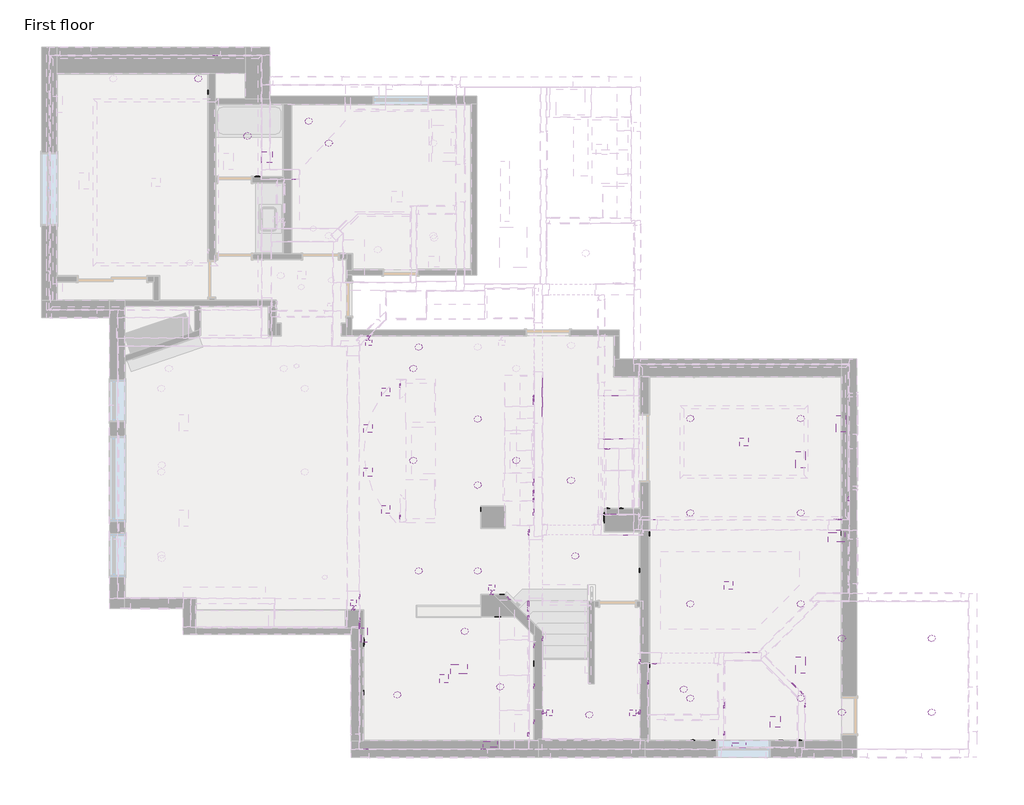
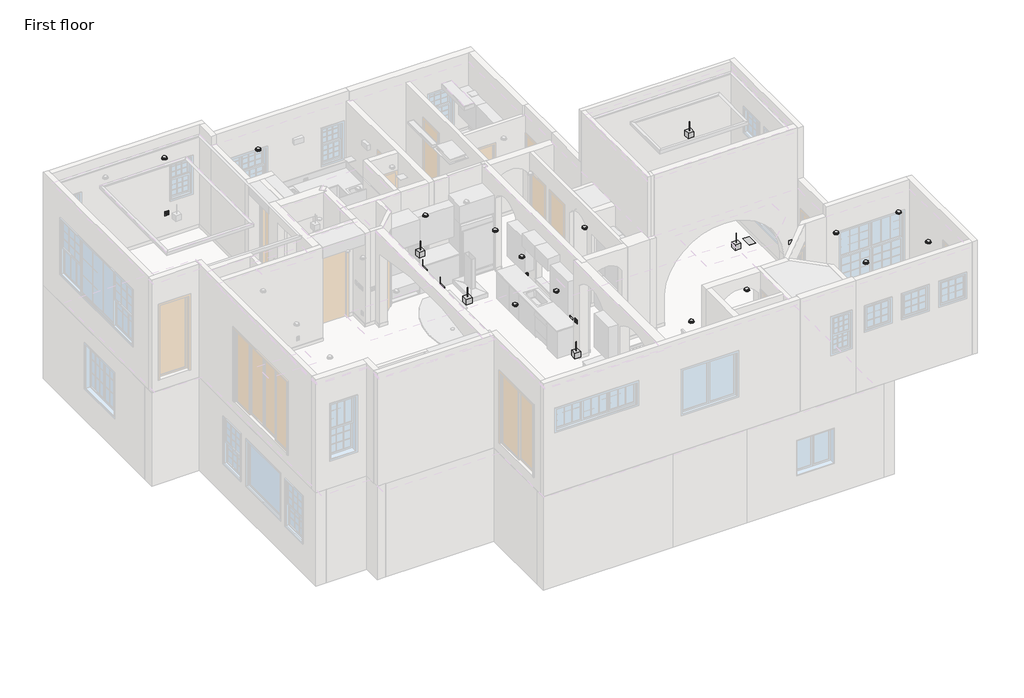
# One storey, part 13 of 14: 68 proxies, 44 light fixtures, 12 air terminals.
"""IFC4 building model written with IfcOpenShell, lengths in millimetres."""

from ifc_helpers import new_model, si_unit, frame, origin, place, context, project, spatial, polyline, outline, extrude, transform, mapped, element, save
from components import c_grill_surface_based_standard_2_7b59e936, c_grill_surface_based_standard_2_45ac2899, c_grill_surface_based_standard_2_2f876657, c_grill_surface_based_standard_2_950f701c, c_grill_surface_based_standard_2_48c5f946, switch_1_switch_1_abfddd09, switch_1_switch_1_dede19c3, switch_15_switch_15_0b5d0301, switch_2_switch_2_55747a91, switch_20_switch_20_6c98c90f, switch_22_switch_22_35867e67, switch_24_switch_24_14b5091a, switch_3_switch_3_7c683c41, switch_4_switch_4_5f3987fe, switch_6_switch_6_e364368d, light_fixture_d200bb49, c_ceiling_lamp_c_ceiling_lamp_de8f2177, c_spotlight_recessed_light_2_4ee42974, c_wall_lamp_horizontal_c_wall_lamp_horizontal_b369eba9

model = new_model("IFC4")

# Units and contexts
model_context = context("Model", 3, world=origin())
ifc_project = project(units=[si_unit("LENGTHUNIT", "METRE", prefix="MILLI")], contexts=[model_context])

# Site, building, storey
site = spatial("IfcSite", under=ifc_project)
building = spatial("IfcBuilding", under=site)
storey = spatial("IfcBuildingStorey", under=building, Name="First floor", Elevation=0.0)

# Air terminals
placement = place(None, origin())
element("IfcAirTerminal", 1, ObjectType="C_Grill_Surface Based : Standard 2", at=placement, inside=storey, context=model_context, shape_type="SweptSolid", body=[
    extrude(outline(polyline([(9225.75625, 647.7), (9009.85625, 647.7), (9009.85625, 876.3), (9225.75625, 876.3), (9225.75625, 647.7)])), frame((0.0, 0.0, 5949.95), z_axis=(0.0, 0.0, 1.0), x_axis=(1.0, 0.0, 0.0)), (0.0, 0.0, 1.0), 6.35),
])
c_grill_surface_based_standard_2_shape = c_grill_surface_based_standard_2_7b59e936(model_context)
element("IfcAirTerminal", 2, ObjectType="C_Grill_Surface Based : Standard 2", at=placement, inside=storey, context=model_context, shape_type="MappedRepresentation", body=[
    mapped(c_grill_surface_based_standard_2_shape, transform((2984.5, 279.4, 3251.2), x_axis=(0.0, -1.0, 0.0), y_axis=(1.0, 0.0, 0.0), z_axis=(0.0, 0.0, 1.0))),
])
element("IfcAirTerminal", 3, ObjectType="C_Grill_Surface Based : Standard 2", at=placement, inside=storey, context=model_context, shape_type="MappedRepresentation", body=[
    mapped(c_grill_surface_based_standard_2_shape, transform((279.4, 2628.9, 3251.2), x_axis=(1.0, 0.0, 0.0), y_axis=(0.0, 1.0, 0.0), z_axis=(0.0, 0.0, 1.0))),
])
c_grill_surface_based_standard_2_2_shape = c_grill_surface_based_standard_2_45ac2899(model_context)
element("IfcAirTerminal", 4, ObjectType="C_Grill_Surface Based : Standard 2", at=placement, inside=storey, context=model_context, shape_type="MappedRepresentation", body=[
    mapped(c_grill_surface_based_standard_2_2_shape, transform((10439.4, 4737.1001027, 3251.2), x_axis=(0.0, -1.0, 0.0), y_axis=(1.0, 0.0, 0.0), z_axis=(0.0, 0.0, 1.0))),
])
element("IfcAirTerminal", 5, ObjectType="C_Grill_Surface Based : Standard 2", at=placement, inside=storey, context=model_context, shape_type="MappedRepresentation", body=[
    mapped(c_grill_surface_based_standard_2_2_shape, transform((9664.7, 6400.8, 2565.4), x_axis=(1.0, 0.0, 0.0), y_axis=(0.0, -1.0, 0.0), z_axis=(0.0, 0.0, -1.0))),
])
element("IfcAirTerminal", 6, ObjectType="C_Grill_Surface Based : Standard 2", at=placement, inside=storey, context=model_context, shape_type="MappedRepresentation", body=[
    mapped(c_grill_surface_based_standard_2_2_shape, transform((9664.7, 1981.2, 2565.4), x_axis=(1.0, 0.0, 0.0), y_axis=(0.0, -1.0, 0.0), z_axis=(0.0, 0.0, -1.0))),
])
element("IfcAirTerminal", 7, ObjectType="C_Grill_Surface Based : Standard 2", at=placement, inside=storey, context=model_context, shape_type="MappedRepresentation", body=[
    mapped(c_grill_surface_based_standard_2_2_shape, transform((2311.4176056, 1898.65, 2565.4), x_axis=(0.0, -1.0, 0.0), y_axis=(-1.0, 0.0, 0.0), z_axis=(0.0, 0.0, -1.0))),
])
element("IfcAirTerminal", 8, ObjectType="C_Grill_Surface Based : Standard 2", at=placement, inside=storey, context=model_context, shape_type="MappedRepresentation", body=[
    mapped(c_grill_surface_based_standard_2_2_shape, transform((10528.3, 7173.676362, 3251.2), x_axis=(1.0, 0.0, 0.0), y_axis=(0.0, 1.0, 0.0), z_axis=(0.0, 0.0, 1.0))),
])
c_grill_surface_based_standard_2_3_shape = c_grill_surface_based_standard_2_2f876657(model_context)
element("IfcAirTerminal", 9, ObjectType="C_Grill_Surface Based : Standard 2", at=placement, inside=storey, context=model_context, shape_type="MappedRepresentation", body=[
    mapped(c_grill_surface_based_standard_2_3_shape, transform((4102.1, 7748.1846376, 6096.0), x_axis=(0.0, 1.0, 0.0), y_axis=(0.0, 0.0, 1.0), z_axis=(1.0, 0.0, 0.0))),
])
c_grill_surface_based_standard_2_4_shape = c_grill_surface_based_standard_2_950f701c(model_context)
element("IfcAirTerminal", 10, ObjectType="C_Grill_Surface Based : Standard 2", at=placement, inside=storey, context=model_context, shape_type="MappedRepresentation", body=[
    mapped(c_grill_surface_based_standard_2_4_shape, transform((5645.15, 7784.9947939, 3543.3), x_axis=(1.0, 0.0, 0.0), y_axis=(0.0, 0.0, 1.0), z_axis=(0.0, -1.0, 0.0))),
])
element("IfcAirTerminal", 11, ObjectType="C_Grill_Surface Based : Standard 2", at=placement, inside=storey, context=model_context, shape_type="MappedRepresentation", body=[
    mapped(c_grill_surface_based_standard_2_4_shape, transform((5632.45, 6845.1947939, 3543.3), x_axis=(-1.0, 0.0, 0.0), y_axis=(0.0, 0.0, 1.0), z_axis=(0.0, 1.0, 0.0))),
])
c_grill_surface_based_standard_2_5_shape = c_grill_surface_based_standard_2_48c5f946(model_context)
element("IfcAirTerminal", 12, ObjectType="C_Grill_Surface Based : Standard 2", at=placement, inside=storey, context=model_context, shape_type="MappedRepresentation", body=[
    mapped(c_grill_surface_based_standard_2_5_shape, transform((-1816.1, 12915.9, 2565.4), x_axis=(1.0, 0.0, 0.0), y_axis=(0.0, -1.0, 0.0), z_axis=(0.0, 0.0, -1.0))),
])

# Proxies
switch_1_switch_1_shape = switch_1_switch_1_abfddd09(model_context)
element("IfcBuildingElementProxy", 13, Name="switch 1 : switch 1", ObjectType="switch 1 : switch 1", at=placement, inside=storey, context=model_context, shape_type="MappedRepresentation", body=[
    mapped(switch_1_switch_1_shape, transform((9677.267823, 1384.432177, 4330.7), x_axis=(-0.7071067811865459, 0.7071067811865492, 0.0), y_axis=(0.0, 0.0, 1.0000000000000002), z_axis=(0.7071067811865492, 0.7071067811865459, 0.0))),
])
element("IfcBuildingElementProxy", 14, Name="switch 1 : switch 1", ObjectType="switch 1 : switch 1", at=placement, inside=storey, context=model_context, shape_type="MappedRepresentation", body=[
    mapped(switch_1_switch_1_shape, transform((9497.6627005, 1564.0372995, 4686.3), x_axis=(-0.7071067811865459, 0.7071067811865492, 0.0), y_axis=(0.0, 0.0, 1.0000000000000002), z_axis=(0.7071067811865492, 0.7071067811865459, 0.0))),
])
element("IfcBuildingElementProxy", 15, Name="switch 1 : switch 1", ObjectType="switch 1 : switch 1", at=placement, inside=storey, context=model_context, shape_type="MappedRepresentation", body=[
    mapped(switch_1_switch_1_shape, transform((10471.15, 4889.5001027, 4559.3), x_axis=(1.0, 0.0, 0.0), y_axis=(0.0, 0.0, 1.0), z_axis=(0.0, -1.0, 0.0))),
])
element("IfcBuildingElementProxy", 16, Name="switch 1 : switch 1", ObjectType="switch 1 : switch 1", at=placement, inside=storey, context=model_context, shape_type="MappedRepresentation", body=[
    mapped(switch_1_switch_1_shape, transform((8686.6358755, 2247.9, 3543.3), x_axis=(-1.0, 0.0, 0.0), y_axis=(0.0, 0.0, 1.0), z_axis=(0.0, 1.0, 0.0))),
])
element("IfcBuildingElementProxy", 17, Name="switch 1 : switch 1", ObjectType="switch 1 : switch 1", at=placement, inside=storey, context=model_context, shape_type="MappedRepresentation", body=[
    mapped(switch_1_switch_1_shape, transform((4102.0996704, 977.9, 1879.6), x_axis=(0.0, 1.0, 0.0), y_axis=(0.0, 0.0, 1.0), z_axis=(1.0, 0.0, 0.0))),
])
element("IfcBuildingElementProxy", 18, Name="switch 1 : switch 1", ObjectType="switch 1 : switch 1", at=placement, inside=storey, context=model_context, shape_type="MappedRepresentation", body=[
    mapped(switch_1_switch_1_shape, transform((4102.0996704, 2552.7003296, 1219.2), x_axis=(0.0, 1.0, 0.0), y_axis=(0.0, 0.0, 1.0), z_axis=(1.0, 0.0, 0.0))),
])
element("IfcBuildingElementProxy", 19, Name="switch 1 : switch 1", ObjectType="switch 1 : switch 1", at=placement, inside=storey, context=model_context, shape_type="MappedRepresentation", body=[
    mapped(switch_1_switch_1_shape, transform((6210.3, 977.9, 1879.6), x_axis=(0.0, -1.0, 0.0), y_axis=(0.0, 0.0, 1.0), z_axis=(-1.0, 0.0, 0.0))),
])
element("IfcBuildingElementProxy", 20, Name="switch 1 : switch 1", ObjectType="switch 1 : switch 1", at=placement, inside=storey, context=model_context, shape_type="MappedRepresentation", body=[
    mapped(switch_1_switch_1_shape, transform((6210.3, 2057.4, 2501.9), x_axis=(0.0, -1.0, 0.0), y_axis=(0.0, 0.0, 1.0), z_axis=(-1.0, 0.0, 0.0))),
])
element("IfcBuildingElementProxy", 21, Name="switch 1 : switch 1", ObjectType="switch 1 : switch 1", at=placement, inside=storey, context=model_context, shape_type="MappedRepresentation", body=[
    mapped(switch_1_switch_1_shape, transform((165.1, 3454.4, 3543.3), x_axis=(0.0, 1.0, 0.0), y_axis=(0.0, 0.0, 1.0), z_axis=(1.0, 0.0, 0.0))),
])
element("IfcBuildingElementProxy", 22, Name="switch 1 : switch 1", ObjectType="switch 1 : switch 1", at=placement, inside=storey, context=model_context, shape_type="MappedRepresentation", body=[
    mapped(switch_1_switch_1_shape, transform((165.1, 2806.7, 4508.5), x_axis=(0.0, 1.0, 0.0), y_axis=(0.0, 0.0, 1.0), z_axis=(1.0, 0.0, 0.0))),
])
element("IfcBuildingElementProxy", 23, Name="switch 1 : switch 1", ObjectType="switch 1 : switch 1", at=placement, inside=storey, context=model_context, shape_type="MappedRepresentation", body=[
    mapped(switch_1_switch_1_shape, transform((165.1, 3454.4, 4508.5), x_axis=(0.0, 1.0, 0.0), y_axis=(0.0, 0.0, 1.0), z_axis=(1.0, 0.0, 0.0))),
])
element("IfcBuildingElementProxy", 24, Name="switch 1 : switch 1", ObjectType="switch 1 : switch 1", at=placement, inside=storey, context=model_context, shape_type="MappedRepresentation", body=[
    mapped(switch_1_switch_1_shape, transform((6400.8, 4806.95, 1079.5), x_axis=(0.0, 1.0, 0.0), y_axis=(0.0, 0.0, 1.0), z_axis=(1.0, 0.0, 0.0))),
])
element("IfcBuildingElementProxy", 25, Name="switch 1 : switch 1", ObjectType="switch 1 : switch 1", at=placement, inside=storey, context=model_context, shape_type="MappedRepresentation", body=[
    mapped(switch_1_switch_1_shape, transform((9232.9, 355.6, 292.1006729), x_axis=(-1.0, 0.0, 0.0), y_axis=(0.0, 0.0, 1.0), z_axis=(0.0, 1.0, 0.0))),
])
element("IfcBuildingElementProxy", 26, Name="switch 1 : switch 1", ObjectType="switch 1 : switch 1", at=placement, inside=storey, context=model_context, shape_type="MappedRepresentation", body=[
    mapped(switch_1_switch_1_shape, transform((3936.9996704, 762.0, 1384.3), x_axis=(0.0, -1.0, 0.0), y_axis=(0.0, 0.0, 1.0), z_axis=(-1.0, 0.0, 0.0))),
])
element("IfcBuildingElementProxy", 27, Name="switch 1 : switch 1", ObjectType="switch 1 : switch 1", at=placement, inside=storey, context=model_context, shape_type="MappedRepresentation", body=[
    mapped(switch_1_switch_1_shape, transform((3936.9996704, 1530.35, 1384.3), x_axis=(0.0, -1.0, 0.0), y_axis=(0.0, 0.0, 1.0), z_axis=(-1.0, 0.0, 0.0))),
])
element("IfcBuildingElementProxy", 28, Name="switch 1 : switch 1", ObjectType="switch 1 : switch 1", at=placement, inside=storey, context=model_context, shape_type="MappedRepresentation", body=[
    mapped(switch_1_switch_1_shape, transform((3936.9996704, 2395.4136704, 1384.3), x_axis=(0.0, -1.0, 0.0), y_axis=(0.0, 0.0, 1.0), z_axis=(-1.0, 0.0, 0.0))),
])
element("IfcBuildingElementProxy", 29, Name="switch 1 : switch 1", ObjectType="switch 1 : switch 1", at=placement, inside=storey, context=model_context, shape_type="MappedRepresentation", body=[
    mapped(switch_1_switch_1_shape, transform((2211.263341, 3035.3176057, 292.1), x_axis=(1.0, 0.0, 0.0), y_axis=(0.0, 0.0, 1.0), z_axis=(0.0, -1.0, 0.0))),
])
switch_1_switch_1_2_shape = switch_1_switch_1_dede19c3(model_context)
element("IfcBuildingElementProxy", 30, Name="switch 1 : switch 1", ObjectType="switch 1 : switch 1", at=placement, inside=storey, context=model_context, shape_type="MappedRepresentation", body=[
    mapped(switch_1_switch_1_2_shape, transform((3924.3, 5270.3947939, 4165.6), x_axis=(0.0, -1.0, 0.0), y_axis=(0.0, 0.0, 1.0), z_axis=(-1.0, 0.0, 0.0))),
])
element("IfcBuildingElementProxy", 31, Name="switch 1 : switch 1", ObjectType="switch 1 : switch 1", at=placement, inside=storey, context=model_context, shape_type="MappedRepresentation", body=[
    mapped(switch_1_switch_1_2_shape, transform((3924.3, 5918.0947939, 4165.6), x_axis=(0.0, -1.0, 0.0), y_axis=(0.0, 0.0, 1.0), z_axis=(-1.0, 0.0, 0.0))),
])
switch_15_switch_15_shape = switch_15_switch_15_0b5d0301(model_context)
element("IfcBuildingElementProxy", 32, Name="switch 15 : switch 15", ObjectType="switch 15 : switch 15", at=placement, inside=storey, context=model_context, shape_type="MappedRepresentation", body=[
    mapped(switch_15_switch_15_shape, transform((3151.0390703, 3035.2971593, 939.8), x_axis=(0.9999999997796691, -2.0991945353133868e-05, 0.0), y_axis=(0.0, 0.0, 1.0), z_axis=(-2.0991945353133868e-05, -0.9999999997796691, 0.0))),
])
element("IfcBuildingElementProxy", 33, Name="switch 15 : switch 15", ObjectType="switch 15 : switch 15", at=placement, inside=storey, context=model_context, shape_type="MappedRepresentation", body=[
    mapped(switch_15_switch_15_shape, transform((1512.763341, 3035.3176057, 927.1), x_axis=(1.0, 0.0, 0.0), y_axis=(0.0, 0.0, 1.0), z_axis=(0.0, -1.0, 0.0))),
])
element("IfcBuildingElementProxy", 34, Name="switch 15 : switch 15", ObjectType="switch 15 : switch 15", at=placement, inside=storey, context=model_context, shape_type="MappedRepresentation", body=[
    mapped(switch_15_switch_15_shape, transform((3936.9996704, 2014.4136704, 939.8), x_axis=(0.0, -1.0, 0.0), y_axis=(0.0, 0.0, 1.0), z_axis=(-1.0, 0.0, 0.0))),
])
element("IfcBuildingElementProxy", 35, Name="switch 15 : switch 15", ObjectType="switch 15 : switch 15", at=placement, inside=storey, context=model_context, shape_type="MappedRepresentation", body=[
    mapped(switch_15_switch_15_shape, transform((3924.3, 5689.4947939, 4165.6), x_axis=(0.0, -1.0, 0.0), y_axis=(0.0, 0.0, 1.0), z_axis=(-1.0, 0.0, 0.0))),
])
element("IfcBuildingElementProxy", 36, Name="switch 15 : switch 15", ObjectType="switch 15 : switch 15", at=placement, inside=storey, context=model_context, shape_type="MappedRepresentation", body=[
    mapped(switch_15_switch_15_shape, transform((3924.3, 7657.9947939, 4165.6), x_axis=(0.0, -1.0, 0.0), y_axis=(0.0, 0.0, 1.0), z_axis=(-1.0, 0.0, 0.0))),
])
element("IfcBuildingElementProxy", 37, Name="switch 15 : switch 15", ObjectType="switch 15 : switch 15", at=placement, inside=storey, context=model_context, shape_type="MappedRepresentation", body=[
    mapped(switch_15_switch_15_shape, transform((5499.0999991, 6641.9947939, 4141.011555), x_axis=(1.0, 0.0, 0.0), y_axis=(0.0, 0.0, 1.0), z_axis=(0.0, -1.0, 0.0))),
])
switch_2_switch_2_shape = switch_2_switch_2_55747a91(model_context)
element("IfcBuildingElementProxy", 38, Name="switch 2 : switch 2", ObjectType="switch 2 : switch 2", at=placement, inside=storey, context=model_context, shape_type="MappedRepresentation", body=[
    mapped(switch_2_switch_2_shape, transform((7791.45, 355.6, 292.1006729), x_axis=(-1.0, 0.0, 0.0), y_axis=(0.0, 0.0, 1.0), z_axis=(0.0, 1.0, 0.0))),
])
element("IfcBuildingElementProxy", 39, Name="switch 2 : switch 2", ObjectType="switch 2 : switch 2", at=placement, inside=storey, context=model_context, shape_type="MappedRepresentation", body=[
    mapped(switch_2_switch_2_shape, transform((10553.7, 4819.65, 292.1), x_axis=(0.0, -1.0, 0.0), y_axis=(0.0, 0.0, 1.0), z_axis=(-1.0, 0.0, 0.0))),
])
switch_20_switch_20_shape = switch_20_switch_20_6c98c90f(model_context)
element("IfcBuildingElementProxy", 40, Name="switch 20 : switch 20", ObjectType="switch 20 : switch 20", at=placement, inside=storey, context=model_context, shape_type="MappedRepresentation", body=[
    mapped(switch_20_switch_20_shape, transform((254.0176056, 2476.5, 977.9), x_axis=(0.0, 1.0, 0.0), y_axis=(0.0, 0.0, 1.0), z_axis=(1.0, 0.0, 0.0))),
])
switch_22_switch_22_shape = switch_22_switch_22_35867e67(model_context)
element("IfcBuildingElementProxy", 41, Name="switch 22 : switch 22", ObjectType="switch 22 : switch 22", at=placement, inside=storey, context=model_context, shape_type="MappedRepresentation", body=[
    mapped(switch_22_switch_22_shape, transform((10464.8, 5105.4001027, 4305.3), x_axis=(-1.0, 0.0, 0.0), y_axis=(0.0, 0.0, 1.0), z_axis=(0.0, 1.0, 0.0))),
])
element("IfcBuildingElementProxy", 42, Name="switch 22 : switch 22", ObjectType="switch 22 : switch 22", at=placement, inside=storey, context=model_context, shape_type="MappedRepresentation", body=[
    mapped(switch_22_switch_22_shape, transform((5575.2999991, 5219.5947939, 4254.5), x_axis=(-1.0, 0.0, 0.0), y_axis=(0.0, 0.0, 1.0), z_axis=(0.0, 1.0, 0.0))),
])
element("IfcBuildingElementProxy", 43, Name="switch 22 : switch 22", ObjectType="switch 22 : switch 22", at=placement, inside=storey, context=model_context, shape_type="MappedRepresentation", body=[
    mapped(switch_22_switch_22_shape, transform((3810.0, 3251.0947939, 4330.7), x_axis=(0.0, -1.0, 0.0), y_axis=(0.0, 0.0, 1.0), z_axis=(-1.0, 0.0, 0.0))),
])
element("IfcBuildingElementProxy", 44, Name="switch 22 : switch 22", ObjectType="switch 22 : switch 22", at=placement, inside=storey, context=model_context, shape_type="MappedRepresentation", body=[
    mapped(switch_22_switch_22_shape, transform((165.1, 2889.25, 4241.8), x_axis=(0.0, 1.0, 0.0), y_axis=(0.0, 0.0, 1.0), z_axis=(1.0, 0.0, 0.0))),
])
element("IfcBuildingElementProxy", 45, Name="switch 22 : switch 22", ObjectType="switch 22 : switch 22", at=placement, inside=storey, context=model_context, shape_type="MappedRepresentation", body=[
    mapped(switch_22_switch_22_shape, transform((-1308.1, 12445.8947939, 4254.5), x_axis=(1.0, 0.0, 0.0), y_axis=(0.0, 0.0, 1.0), z_axis=(0.0, -1.0, 0.0))),
])
element("IfcBuildingElementProxy", 46, Name="switch 22 : switch 22", ObjectType="switch 22 : switch 22", at=placement, inside=storey, context=model_context, shape_type="MappedRepresentation", body=[
    mapped(switch_22_switch_22_shape, transform((5448.3, 5156.2, 1054.1), x_axis=(0.0, -1.0, 0.0), y_axis=(0.0, 0.0, 1.0), z_axis=(-1.0, 0.0, 0.0))),
])
switch_24_switch_24_shape = switch_24_switch_24_14b5091a(model_context)
element("IfcBuildingElementProxy", 47, Name="switch 24 : switch 24", ObjectType="switch 24 : switch 24", at=placement, inside=storey, context=model_context, shape_type="MappedRepresentation", body=[
    mapped(switch_24_switch_24_shape, transform((3810.0, 3009.7947939, 4330.7), x_axis=(0.0, -1.0, 0.0), y_axis=(0.0, 0.0, 1.0), z_axis=(-1.0, 0.0, 0.0))),
])
element("IfcBuildingElementProxy", 48, Name="switch 24 : switch 24", ObjectType="switch 24 : switch 24", at=placement, inside=storey, context=model_context, shape_type="MappedRepresentation", body=[
    mapped(switch_24_switch_24_shape, transform((3810.0, 488.95, 4330.7), x_axis=(0.0, -1.0, 0.0), y_axis=(0.0, 0.0, 1.0), z_axis=(-1.0, 0.0, 0.0))),
])
element("IfcBuildingElementProxy", 49, Name="switch 24 : switch 24", ObjectType="switch 24 : switch 24", at=placement, inside=storey, context=model_context, shape_type="MappedRepresentation", body=[
    mapped(switch_24_switch_24_shape, transform((3924.3, 5537.0947939, 4330.7), x_axis=(0.0, -1.0, 0.0), y_axis=(0.0, 0.0, 1.0), z_axis=(-1.0, 0.0, 0.0))),
])
element("IfcBuildingElementProxy", 50, Name="switch 24 : switch 24", ObjectType="switch 24 : switch 24", at=placement, inside=storey, context=model_context, shape_type="MappedRepresentation", body=[
    mapped(switch_24_switch_24_shape, transform((3924.3, 7746.8947939, 4330.7), x_axis=(0.0, -1.0, 0.0), y_axis=(0.0, 0.0, 1.0), z_axis=(-1.0, 0.0, 0.0))),
])
switch_3_switch_3_shape = switch_3_switch_3_7c683c41(model_context)
element("IfcBuildingElementProxy", 51, Name="switch 3 : switch 3", ObjectType="switch 3 : switch 3", at=placement, inside=storey, context=model_context, shape_type="MappedRepresentation", body=[
    mapped(switch_3_switch_3_shape, transform((6515.1, 2019.3, 4356.1), x_axis=(1.0, 0.0, 0.0), y_axis=(0.0, 0.0, 1.0), z_axis=(0.0, -1.0, 0.0))),
])
element("IfcBuildingElementProxy", 52, Name="switch 3 : switch 3", ObjectType="switch 3 : switch 3", at=placement, inside=storey, context=model_context, shape_type="MappedRepresentation", body=[
    mapped(switch_3_switch_3_shape, transform((3378.3381867, 3416.1618133, 1320.8), x_axis=(-0.7071067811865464, 0.7071067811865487, 0.0), y_axis=(0.0, 0.0, 1.0), z_axis=(0.7071067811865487, 0.7071067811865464, 0.0))),
])
switch_4_switch_4_shape = switch_4_switch_4_5f3987fe(model_context)
element("IfcBuildingElementProxy", 53, Name="switch 4 : switch 4", ObjectType="switch 4 : switch 4", at=placement, inside=storey, context=model_context, shape_type="MappedRepresentation", body=[
    mapped(switch_4_switch_4_shape, transform((9753.6, 1113.3335937, 3543.3), x_axis=(0.0, 1.0, 0.0), y_axis=(0.0, 0.0, 1.0), z_axis=(1.0, 0.0, 0.0))),
])
element("IfcBuildingElementProxy", 54, Name="switch 4 : switch 4", ObjectType="switch 4 : switch 4", at=placement, inside=storey, context=model_context, shape_type="MappedRepresentation", body=[
    mapped(switch_4_switch_4_shape, transform((8013.7, 514.35, 4368.8), x_axis=(0.0, 1.0, 0.0), y_axis=(0.0, 0.0, 1.0), z_axis=(1.0, 0.0, 0.0))),
])
element("IfcBuildingElementProxy", 55, Name="switch 4 : switch 4", ObjectType="switch 4 : switch 4", at=placement, inside=storey, context=model_context, shape_type="MappedRepresentation", body=[
    mapped(switch_4_switch_4_shape, transform((6375.4, 1612.9, 3543.3), x_axis=(0.0, 1.0, 0.0), y_axis=(0.0, 0.0, 1.0), z_axis=(1.0, 0.0, 0.0))),
])
element("IfcBuildingElementProxy", 56, Name="switch 4 : switch 4", ObjectType="switch 4 : switch 4", at=placement, inside=storey, context=model_context, shape_type="MappedRepresentation", body=[
    mapped(switch_4_switch_4_shape, transform((10706.1, 5562.6001027, 3556.0), x_axis=(0.0, -1.0, 0.0), y_axis=(0.0, 0.0, 1.0), z_axis=(-1.0, 0.0, 0.0))),
])
element("IfcBuildingElementProxy", 57, Name="switch 4 : switch 4", ObjectType="switch 4 : switch 4", at=placement, inside=storey, context=model_context, shape_type="MappedRepresentation", body=[
    mapped(switch_4_switch_4_shape, transform((5905.4999991, 4787.7947939, 3556.0), x_axis=(1.0, 0.0, 0.0), y_axis=(0.0, 0.0, 1.0), z_axis=(0.0, -1.0, 0.0))),
])
element("IfcBuildingElementProxy", 58, Name="switch 4 : switch 4", ObjectType="switch 4 : switch 4", at=placement, inside=storey, context=model_context, shape_type="MappedRepresentation", body=[
    mapped(switch_4_switch_4_shape, transform((8527.8136153, 2247.9, 3543.3), x_axis=(-1.0, 0.0, 0.0), y_axis=(0.0, 0.0, 1.0), z_axis=(0.0, 1.0, 0.0))),
])
element("IfcBuildingElementProxy", 59, Name="switch 4 : switch 4", ObjectType="switch 4 : switch 4", at=placement, inside=storey, context=model_context, shape_type="MappedRepresentation", body=[
    mapped(switch_4_switch_4_shape, transform((6483.3499991, 5105.4001027, 3543.3006729), x_axis=(-1.0, 0.0, 0.0), y_axis=(0.0, 0.0, 1.0), z_axis=(0.0, 1.0, 0.0))),
])
element("IfcBuildingElementProxy", 60, Name="switch 4 : switch 4", ObjectType="switch 4 : switch 4", at=placement, inside=storey, context=model_context, shape_type="MappedRepresentation", body=[
    mapped(switch_4_switch_4_shape, transform((2832.1, 165.1, 3543.3), x_axis=(-1.0, 0.0, 0.0), y_axis=(0.0, 0.0, 1.0), z_axis=(0.0, 1.0, 0.0))),
])
element("IfcBuildingElementProxy", 61, Name="switch 4 : switch 4", ObjectType="switch 4 : switch 4", at=placement, inside=storey, context=model_context, shape_type="MappedRepresentation", body=[
    mapped(switch_4_switch_4_shape, transform((311.15, 165.1, 3543.3), x_axis=(-1.0, 0.0, 0.0), y_axis=(0.0, 0.0, 1.0), z_axis=(0.0, 1.0, 0.0))),
])
element("IfcBuildingElementProxy", 62, Name="switch 4 : switch 4", ObjectType="switch 4 : switch 4", at=placement, inside=storey, context=model_context, shape_type="MappedRepresentation", body=[
    mapped(switch_4_switch_4_shape, transform((165.1, 2851.15, 3543.3), x_axis=(0.0, 1.0, 0.0), y_axis=(0.0, 0.0, 1.0), z_axis=(1.0, 0.0, 0.0))),
])
element("IfcBuildingElementProxy", 63, Name="switch 4 : switch 4", ObjectType="switch 4 : switch 4", at=placement, inside=storey, context=model_context, shape_type="MappedRepresentation", body=[
    mapped(switch_4_switch_4_shape, transform((1054.1, 5168.9, 3898.9), x_axis=(0.0, -1.0, 0.0), y_axis=(0.0, 0.0, 1.0), z_axis=(-1.0, 0.0, 0.0))),
])
element("IfcBuildingElementProxy", 64, Name="switch 4 : switch 4", ObjectType="switch 4 : switch 4", at=placement, inside=storey, context=model_context, shape_type="MappedRepresentation", body=[
    mapped(switch_4_switch_4_shape, transform((1054.1, 8001.0, 3898.9), x_axis=(0.0, -1.0, 0.0), y_axis=(0.0, 0.0, 1.0), z_axis=(-1.0, 0.0, 0.0))),
])
element("IfcBuildingElementProxy", 65, Name="switch 4 : switch 4", ObjectType="switch 4 : switch 4", at=placement, inside=storey, context=model_context, shape_type="MappedRepresentation", body=[
    mapped(switch_4_switch_4_shape, transform((6400.8, 1974.85, 292.1006729), x_axis=(0.0, 1.0, 0.0), y_axis=(0.0, 0.0, 1.0), z_axis=(1.0, 0.0, 0.0))),
])
element("IfcBuildingElementProxy", 66, Name="switch 4 : switch 4", ObjectType="switch 4 : switch 4", at=placement, inside=storey, context=model_context, shape_type="MappedRepresentation", body=[
    mapped(switch_4_switch_4_shape, transform((7346.95, 355.6, 292.1006729), x_axis=(-1.0, 0.0, 0.0), y_axis=(0.0, 0.0, 1.0), z_axis=(0.0, 1.0, 0.0))),
])
element("IfcBuildingElementProxy", 67, Name="switch 4 : switch 4", ObjectType="switch 4 : switch 4", at=placement, inside=storey, context=model_context, shape_type="MappedRepresentation", body=[
    mapped(switch_4_switch_4_shape, transform((9639.3, 355.6, 292.1006729), x_axis=(-1.0, 0.0, 0.0), y_axis=(0.0, 0.0, 1.0), z_axis=(0.0, 1.0, 0.0))),
])
element("IfcBuildingElementProxy", 68, Name="switch 4 : switch 4", ObjectType="switch 4 : switch 4", at=placement, inside=storey, context=model_context, shape_type="MappedRepresentation", body=[
    mapped(switch_4_switch_4_shape, transform((254.0176056, 1390.65, 292.1006729), x_axis=(0.0, 1.0, 0.0), y_axis=(0.0, 0.0, 1.0), z_axis=(1.0, 0.0, 0.0))),
])
element("IfcBuildingElementProxy", 69, Name="switch 4 : switch 4", ObjectType="switch 4 : switch 4", at=placement, inside=storey, context=model_context, shape_type="MappedRepresentation", body=[
    mapped(switch_4_switch_4_shape, transform((2147.7463408, 3238.5176057, 292.1006729), x_axis=(-1.0, 0.0, 0.0), y_axis=(0.0, 0.0, 1.0), z_axis=(0.0, 1.0, 0.0))),
])
element("IfcBuildingElementProxy", 70, Name="switch 4 : switch 4", ObjectType="switch 4 : switch 4", at=placement, inside=storey, context=model_context, shape_type="MappedRepresentation", body=[
    mapped(switch_4_switch_4_shape, transform((3238.5057431, 3492.4953233, 292.1), x_axis=(-0.9999999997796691, 2.0991945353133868e-05, 0.0), y_axis=(0.0, 0.0, 1.0), z_axis=(2.0991945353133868e-05, 0.9999999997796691, 0.0))),
])
element("IfcBuildingElementProxy", 71, Name="switch 4 : switch 4", ObjectType="switch 4 : switch 4", at=placement, inside=storey, context=model_context, shape_type="MappedRepresentation", body=[
    mapped(switch_4_switch_4_shape, transform((6210.3, 4019.55, 292.1006729), x_axis=(0.0, -1.0, 0.0), y_axis=(0.0, 0.0, 1.0), z_axis=(-1.0, 0.0, 0.0))),
])
element("IfcBuildingElementProxy", 72, Name="switch 4 : switch 4", ObjectType="switch 4 : switch 4", at=placement, inside=storey, context=model_context, shape_type="MappedRepresentation", body=[
    mapped(switch_4_switch_4_shape, transform((5511.8, 5346.7, 292.1006729), x_axis=(-1.0, 0.0, 0.0), y_axis=(0.0, 0.0, 1.0), z_axis=(0.0, 1.0, 0.0))),
])
element("IfcBuildingElementProxy", 73, Name="switch 4 : switch 4", ObjectType="switch 4 : switch 4", at=placement, inside=storey, context=model_context, shape_type="MappedRepresentation", body=[
    mapped(switch_4_switch_4_shape, transform((5803.9, 5346.7, 292.1006729), x_axis=(-1.0, 0.0, 0.0), y_axis=(0.0, 0.0, 1.0), z_axis=(0.0, 1.0, 0.0))),
])
element("IfcBuildingElementProxy", 74, Name="switch 4 : switch 4", ObjectType="switch 4 : switch 4", at=placement, inside=storey, context=model_context, shape_type="MappedRepresentation", body=[
    mapped(switch_4_switch_4_shape, transform((-3073.4, 14312.9, 292.1), x_axis=(0.0, -1.0, 0.0), y_axis=(0.0, 0.0, 1.0), z_axis=(-1.0, 0.0, 0.0))),
])
element("IfcBuildingElementProxy", 75, Name="switch 4 : switch 4", ObjectType="switch 4 : switch 4", at=placement, inside=storey, context=model_context, shape_type="MappedRepresentation", body=[
    mapped(switch_4_switch_4_shape, transform((2794.0, 5334.0, 292.1006729), x_axis=(0.0, -1.0, 0.0), y_axis=(0.0, 0.0, 1.0), z_axis=(-1.0, 0.0, 0.0))),
])
switch_6_switch_6_shape = switch_6_switch_6_e364368d(model_context)
element("IfcBuildingElementProxy", 76, Name="switch 6 : switch 6", ObjectType="switch 6 : switch 6", at=placement, inside=storey, context=model_context, shape_type="MappedRepresentation", body=[
    mapped(switch_6_switch_6_shape, transform((9520.1133409, 1541.5866591, 4330.7), x_axis=(-0.7071067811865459, 0.7071067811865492, 0.0), y_axis=(0.0, 0.0, 1.0000000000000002), z_axis=(0.7071067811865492, 0.7071067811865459, 0.0))),
])
element("IfcBuildingElementProxy", 77, Name="switch 6 : switch 6", ObjectType="switch 6 : switch 6", at=placement, inside=storey, context=model_context, shape_type="MappedRepresentation", body=[
    mapped(switch_6_switch_6_shape, transform((8013.7, 1117.6, 4368.8), x_axis=(0.0, 1.0, 0.0), y_axis=(0.0, 0.0, 1.0), z_axis=(1.0, 0.0, 0.0))),
])
element("IfcBuildingElementProxy", 78, Name="switch 6 : switch 6", ObjectType="switch 6 : switch 6", at=placement, inside=storey, context=model_context, shape_type="MappedRepresentation", body=[
    mapped(switch_6_switch_6_shape, transform((-2933.7, 15113.0, 4000.5), x_axis=(1.0, 0.0, 0.0), y_axis=(0.0, 0.0, 1.0), z_axis=(0.0, -1.0, 0.0))),
])
element("IfcBuildingElementProxy", 79, Name="switch 6 : switch 6", ObjectType="switch 6 : switch 6", at=placement, inside=storey, context=model_context, shape_type="MappedRepresentation", body=[
    mapped(switch_6_switch_6_shape, transform((3822.7, 4838.5947939, 4330.7), x_axis=(0.0, -1.0, 0.0), y_axis=(0.0, 0.0, 1.0), z_axis=(-1.0, 0.0, 0.0))),
])
element("IfcBuildingElementProxy", 80, Name="switch 6 : switch 6", ObjectType="switch 6 : switch 6", at=placement, inside=storey, context=model_context, shape_type="MappedRepresentation", body=[
    mapped(switch_6_switch_6_shape, transform((-2019.3, 12484.1, 1079.5), x_axis=(-1.0, 0.0, 0.0), y_axis=(0.0, 0.0, 1.0), z_axis=(0.0, 1.0, 0.0))),
])

# Light fixtures
light_fixture_shape = light_fixture_d200bb49(model_context)
element("IfcLightFixture", 81, ObjectType="C_Sconce Downwards : 33700 ICARIA White ceiling fan / Wood Blade", at=placement, inside=storey, context=model_context, shape_type="MappedRepresentation", body=[
    mapped(light_fixture_shape, transform((3017.7094807, 3492.4999582, 1727.2), x_axis=(-0.9999999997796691, 2.0991945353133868e-05, 0.0), y_axis=(0.0, 0.0, 1.0), z_axis=(2.0991945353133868e-05, 0.9999999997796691, 0.0))),
])
element("IfcLightFixture", 82, ObjectType="C_Sconce Downwards : 33700 ICARIA White ceiling fan / Wood Blade", at=placement, inside=storey, context=model_context, shape_type="MappedRepresentation", body=[
    mapped(light_fixture_shape, transform((44.4682336, 3162.3, 1727.2), x_axis=(-1.0, 0.0, 0.0), y_axis=(0.0, 0.0, 1.0), z_axis=(0.0, 1.0, 0.0))),
])
element("IfcLightFixture", 83, ObjectType="C_Sconce Downwards : 33700 ICARIA White ceiling fan / Wood Blade", at=placement, inside=storey, context=model_context, shape_type="MappedRepresentation", body=[
    mapped(light_fixture_shape, transform((374.7065622, 9080.5, 1727.2), x_axis=(1.0, 0.0, 0.0), y_axis=(0.0, 0.0, 1.0), z_axis=(0.0, -1.0, 0.0))),
])
element("IfcLightFixture", 84, ObjectType="C_Sconce Downwards : 33700 ICARIA White ceiling fan / Wood Blade", at=placement, inside=storey, context=model_context, shape_type="MappedRepresentation", body=[
    mapped(light_fixture_shape, transform((6210.3, 952.5, 3981.45), x_axis=(0.0, -1.0, 0.0), y_axis=(0.0, 0.0, 1.0), z_axis=(-1.0, 0.0, 0.0))),
])
element("IfcLightFixture", 85, ObjectType="C_Sconce Downwards : 33700 ICARIA White ceiling fan / Wood Blade", at=placement, inside=storey, context=model_context, shape_type="MappedRepresentation", body=[
    mapped(light_fixture_shape, transform((4102.1, 952.5, 3981.4317664), x_axis=(0.0, 1.0, 0.0), y_axis=(0.0, 0.0, 1.0), z_axis=(1.0, 0.0, 0.0))),
])
c_ceiling_lamp_c_ceiling_lamp_shape = c_ceiling_lamp_c_ceiling_lamp_de8f2177(model_context)
element("IfcLightFixture", 86, ObjectType="C_Ceiling Lamp : C_Ceiling Lamp", at=placement, inside=storey, context=model_context, shape_type="MappedRepresentation", body=[
    mapped(c_ceiling_lamp_c_ceiling_lamp_shape, transform((8445.5222101, 6781.8, 5689.6), x_axis=(1.0, 0.0, 0.0), y_axis=(0.0, 1.0, 0.0), z_axis=(0.0, 0.0, 1.0))),
])
element("IfcLightFixture", 87, ObjectType="C_Ceiling Lamp : C_Ceiling Lamp", at=placement, inside=storey, context=model_context, shape_type="MappedRepresentation", body=[
    mapped(c_ceiling_lamp_c_ceiling_lamp_shape, transform((8115.2586267, 3695.7001027, 4013.2), x_axis=(1.0, 0.0, 0.0), y_axis=(0.0, 1.0, 0.0), z_axis=(0.0, 0.0, 1.0))),
])
element("IfcLightFixture", 88, ObjectType="C_Ceiling Lamp : C_Ceiling Lamp", at=placement, inside=storey, context=model_context, shape_type="MappedRepresentation", body=[
    mapped(c_ceiling_lamp_c_ceiling_lamp_shape, transform((1993.9, 1689.1, 3822.7), x_axis=(1.0, 0.0, 0.0), y_axis=(0.0, 1.0, 0.0), z_axis=(0.0, 0.0, 1.0))),
])
element("IfcLightFixture", 89, ObjectType="C_Ceiling Lamp : C_Ceiling Lamp", at=placement, inside=storey, context=model_context, shape_type="MappedRepresentation", body=[
    mapped(c_ceiling_lamp_c_ceiling_lamp_shape, transform((736.6, 5334.0, 3822.7), x_axis=(1.0, 0.0, 0.0), y_axis=(0.0, 1.0, 0.0), z_axis=(0.0, 0.0, 1.0))),
])
element("IfcLightFixture", 90, ObjectType="C_Ceiling Lamp : C_Ceiling Lamp", at=placement, inside=storey, context=model_context, shape_type="MappedRepresentation", body=[
    mapped(c_ceiling_lamp_c_ceiling_lamp_shape, transform((355.6, 6134.1, 3822.7), x_axis=(1.0, 0.0, 0.0), y_axis=(0.0, 1.0, 0.0), z_axis=(0.0, 0.0, 1.0))),
])
element("IfcLightFixture", 91, ObjectType="C_Ceiling Lamp : C_Ceiling Lamp", at=placement, inside=storey, context=model_context, shape_type="MappedRepresentation", body=[
    mapped(c_ceiling_lamp_c_ceiling_lamp_shape, transform((355.6, 7073.9, 3822.7), x_axis=(1.0, 0.0, 0.0), y_axis=(0.0, 1.0, 0.0), z_axis=(0.0, 0.0, 1.0))),
])
element("IfcLightFixture", 92, ObjectType="C_Ceiling Lamp : C_Ceiling Lamp", at=placement, inside=storey, context=model_context, shape_type="MappedRepresentation", body=[
    mapped(c_ceiling_lamp_c_ceiling_lamp_shape, transform((736.6, 7861.3, 3822.7), x_axis=(1.0, 0.0, 0.0), y_axis=(0.0, 1.0, 0.0), z_axis=(0.0, 0.0, 1.0))),
])
c_spotlight_recessed_light_2_shape = c_spotlight_recessed_light_2_4ee42974(model_context)
element("IfcLightFixture", 93, ObjectType="C_Spotlight Recessed : Light 2", at=placement, inside=storey, context=model_context, shape_type="MappedRepresentation", body=[
    mapped(c_spotlight_recessed_light_2_shape, transform((12484.0996069, 965.1850671, 6299.2), x_axis=(0.99999999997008, -7.7356313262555e-06, 0.0), y_axis=(-7.7356313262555e-06, -0.99999999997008, 0.0), z_axis=(0.0, 0.0, -1.0))),
])
element("IfcLightFixture", 94, ObjectType="C_Spotlight Recessed : Light 2", at=placement, inside=storey, context=model_context, shape_type="MappedRepresentation", body=[
    mapped(c_spotlight_recessed_light_2_shape, transform((12484.0996069, 2559.0350671, 6299.2), x_axis=(0.99999999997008, -7.7356313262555e-06, 0.0), y_axis=(-7.7356313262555e-06, -0.99999999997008, 0.0), z_axis=(0.0, 0.0, -1.0))),
])
element("IfcLightFixture", 95, ObjectType="C_Spotlight Recessed : Light 2", at=placement, inside=storey, context=model_context, shape_type="MappedRepresentation", body=[
    mapped(c_spotlight_recessed_light_2_shape, transform((10553.6996069, 965.1850671, 6299.2), x_axis=(0.99999999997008, -7.7356313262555e-06, 0.0), y_axis=(-7.7356313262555e-06, -0.99999999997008, 0.0), z_axis=(0.0, 0.0, -1.0))),
])
element("IfcLightFixture", 96, ObjectType="C_Spotlight Recessed : Light 2", at=placement, inside=storey, context=model_context, shape_type="MappedRepresentation", body=[
    mapped(c_spotlight_recessed_light_2_shape, transform((10553.6996069, 2559.0350671, 6299.2), x_axis=(0.99999999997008, -7.7356313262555e-06, 0.0), y_axis=(-7.7356313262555e-06, -0.99999999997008, 0.0), z_axis=(0.0, 0.0, -1.0))),
])
element("IfcLightFixture", 97, ObjectType="C_Spotlight Recessed : Light 2", at=placement, inside=storey, context=model_context, shape_type="MappedRepresentation", body=[
    mapped(c_spotlight_recessed_light_2_shape, transform((7150.1, 1460.5, 6299.2), x_axis=(0.9999999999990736, -1.3611479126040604e-06, 0.0), y_axis=(-1.3611479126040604e-06, -0.9999999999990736, 0.0), z_axis=(0.0, 0.0, -1.0))),
])
element("IfcLightFixture", 98, ObjectType="C_Spotlight Recessed : Light 2", at=placement, inside=storey, context=model_context, shape_type="MappedRepresentation", body=[
    mapped(c_spotlight_recessed_light_2_shape, transform((5118.1, 914.4, 6299.2), x_axis=(0.999999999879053, 1.5552947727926e-05, 0.0), y_axis=(1.5552947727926e-05, -0.999999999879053, 0.0), z_axis=(0.0, 0.0, -1.0))),
])
element("IfcLightFixture", 99, ObjectType="C_Spotlight Recessed : Light 2", at=placement, inside=storey, context=model_context, shape_type="MappedRepresentation", body=[
    mapped(c_spotlight_recessed_light_2_shape, transform((4724.3951375, 5956.2135172, 6451.6), x_axis=(-0.9999999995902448, 2.862709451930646e-05, 0.0), y_axis=(2.862709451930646e-05, 0.9999999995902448, 0.0), z_axis=(0.0, 0.0, -1.0))),
])
element("IfcLightFixture", 100, ObjectType="C_Spotlight Recessed : Light 2", at=placement, inside=storey, context=model_context, shape_type="MappedRepresentation", body=[
    mapped(c_spotlight_recessed_light_2_shape, transform((1447.6972395, 4005.016738, 6261.1), x_axis=(0.0, -1.0, 0.0), y_axis=(-1.0, 0.0, 0.0), z_axis=(0.0, 0.0, -1.0))),
])
element("IfcLightFixture", 101, ObjectType="C_Spotlight Recessed : Light 2", at=placement, inside=storey, context=model_context, shape_type="MappedRepresentation", body=[
    mapped(c_spotlight_recessed_light_2_shape, transform((2717.6972395, 4005.016738, 6261.1), x_axis=(0.0, -1.0, 0.0), y_axis=(-1.0, 0.0, 0.0), z_axis=(0.0, 0.0, -1.0))),
])
element("IfcLightFixture", 102, ObjectType="C_Spotlight Recessed : Light 2", at=placement, inside=storey, context=model_context, shape_type="MappedRepresentation", body=[
    mapped(c_spotlight_recessed_light_2_shape, transform((2717.6972395, 5854.7, 6261.1), x_axis=(0.0, -1.0, 0.0), y_axis=(-1.0, 0.0, 0.0), z_axis=(0.0, 0.0, -1.0))),
])
element("IfcLightFixture", 103, ObjectType="C_Spotlight Recessed : Light 2", at=placement, inside=storey, context=model_context, shape_type="MappedRepresentation", body=[
    mapped(c_spotlight_recessed_light_2_shape, transform((2717.6972395, 7277.1, 6261.1), x_axis=(0.0, -1.0, 0.0), y_axis=(-1.0, 0.0, 0.0), z_axis=(0.0, 0.0, -1.0))),
])
element("IfcLightFixture", 104, ObjectType="C_Spotlight Recessed : Light 2", at=placement, inside=storey, context=model_context, shape_type="MappedRepresentation", body=[
    mapped(c_spotlight_recessed_light_2_shape, transform((1447.6972395, 8826.5, 6261.1), x_axis=(0.0, -1.0, 0.0), y_axis=(-1.0, 0.0, 0.0), z_axis=(0.0, 0.0, -1.0))),
])
element("IfcLightFixture", 105, ObjectType="C_Spotlight Recessed : Light 2", at=placement, inside=storey, context=model_context, shape_type="MappedRepresentation", body=[
    mapped(c_spotlight_recessed_light_2_shape, transform((-920.75, 13690.4947939, 6299.2), x_axis=(0.0, -1.0, 0.0), y_axis=(-1.0, 0.0, 0.0), z_axis=(0.0, 0.0, -1.0))),
])
element("IfcLightFixture", 106, ObjectType="C_Spotlight Recessed : Light 2", at=placement, inside=storey, context=model_context, shape_type="MappedRepresentation", body=[
    mapped(c_spotlight_recessed_light_2_shape, transform((-3295.65, 14605.0, 6299.2), x_axis=(0.0, -1.0, 0.0), y_axis=(-1.0, 0.0, 0.0), z_axis=(0.0, 0.0, -1.0))),
])
element("IfcLightFixture", 107, ObjectType="C_Spotlight Recessed : Light 2", at=placement, inside=storey, context=model_context, shape_type="MappedRepresentation", body=[
    mapped(c_spotlight_recessed_light_2_shape, transform((9664.7, 1270.0266421, 2565.4), x_axis=(0.0, -1.0, 0.0), y_axis=(-1.0, 0.0, 0.0), z_axis=(0.0, 0.0, -1.0))),
])
element("IfcLightFixture", 108, ObjectType="C_Spotlight Recessed : Light 2", at=placement, inside=storey, context=model_context, shape_type="MappedRepresentation", body=[
    mapped(c_spotlight_recessed_light_2_shape, transform((7289.8, 1270.0266421, 2565.4), x_axis=(0.0, -1.0, 0.0), y_axis=(-1.0, 0.0, 0.0), z_axis=(0.0, 0.0, -1.0))),
])
element("IfcLightFixture", 109, ObjectType="C_Spotlight Recessed : Light 2", at=placement, inside=storey, context=model_context, shape_type="MappedRepresentation", body=[
    mapped(c_spotlight_recessed_light_2_shape, transform((7289.8, 3302.0266421, 2565.4), x_axis=(0.0, -1.0, 0.0), y_axis=(-1.0, 0.0, 0.0), z_axis=(0.0, 0.0, -1.0))),
])
element("IfcLightFixture", 110, ObjectType="C_Spotlight Recessed : Light 2", at=placement, inside=storey, context=model_context, shape_type="MappedRepresentation", body=[
    mapped(c_spotlight_recessed_light_2_shape, transform((9664.7, 3302.0266421, 2565.4), x_axis=(0.0, -1.0, 0.0), y_axis=(-1.0, 0.0, 0.0), z_axis=(0.0, 0.0, -1.0))),
])
element("IfcLightFixture", 111, ObjectType="C_Spotlight Recessed : Light 2", at=placement, inside=storey, context=model_context, shape_type="MappedRepresentation", body=[
    mapped(c_spotlight_recessed_light_2_shape, transform((9664.7, 5257.8266421, 2565.4), x_axis=(0.0, -1.0, 0.0), y_axis=(-1.0, 0.0, 0.0), z_axis=(0.0, 0.0, -1.0))),
])
element("IfcLightFixture", 112, ObjectType="C_Spotlight Recessed : Light 2", at=placement, inside=storey, context=model_context, shape_type="MappedRepresentation", body=[
    mapped(c_spotlight_recessed_light_2_shape, transform((7289.8, 5257.8266421, 2565.4), x_axis=(0.0, -1.0, 0.0), y_axis=(-1.0, 0.0, 0.0), z_axis=(0.0, 0.0, -1.0))),
])
element("IfcLightFixture", 113, ObjectType="C_Spotlight Recessed : Light 2", at=placement, inside=storey, context=model_context, shape_type="MappedRepresentation", body=[
    mapped(c_spotlight_recessed_light_2_shape, transform((7289.8, 7289.8266421, 2565.4), x_axis=(0.0, -1.0, 0.0), y_axis=(-1.0, 0.0, 0.0), z_axis=(0.0, 0.0, -1.0))),
])
element("IfcLightFixture", 114, ObjectType="C_Spotlight Recessed : Light 2", at=placement, inside=storey, context=model_context, shape_type="MappedRepresentation", body=[
    mapped(c_spotlight_recessed_light_2_shape, transform((9664.7, 7289.8266421, 2565.4), x_axis=(0.0, -1.0, 0.0), y_axis=(-1.0, 0.0, 0.0), z_axis=(0.0, 0.0, -1.0))),
])
element("IfcLightFixture", 115, ObjectType="C_Spotlight Recessed : Light 2", at=placement, inside=storey, context=model_context, shape_type="MappedRepresentation", body=[
    mapped(c_spotlight_recessed_light_2_shape, transform((4813.3, 4330.7, 2565.4), x_axis=(0.0, -1.0, 0.0), y_axis=(-1.0, 0.0, 0.0), z_axis=(0.0, 0.0, -1.0))),
])
element("IfcLightFixture", 116, ObjectType="C_Spotlight Recessed : Light 2", at=placement, inside=storey, context=model_context, shape_type="MappedRepresentation", body=[
    mapped(c_spotlight_recessed_light_2_shape, transform((3200.3996704, 1517.65, 2565.4), x_axis=(0.0, -1.0, 0.0), y_axis=(-1.0, 0.0, 0.0), z_axis=(0.0, 0.0, -1.0))),
])
element("IfcLightFixture", 117, ObjectType="C_Spotlight Recessed : Light 2", at=placement, inside=storey, context=model_context, shape_type="MappedRepresentation", body=[
    mapped(c_spotlight_recessed_light_2_shape, transform((990.6176056, 1339.85, 2565.4), x_axis=(0.0, -1.0, 0.0), y_axis=(-1.0, 0.0, 0.0), z_axis=(0.0, 0.0, -1.0))),
])
element("IfcLightFixture", 118, ObjectType="C_Spotlight Recessed : Light 2", at=placement, inside=storey, context=model_context, shape_type="MappedRepresentation", body=[
    mapped(c_spotlight_recessed_light_2_shape, transform((2438.3996704, 2711.4620454, 2565.4), x_axis=(0.0, -1.0, 0.0), y_axis=(-1.0, 0.0, 0.0), z_axis=(0.0, 0.0, -1.0))),
])
element("IfcLightFixture", 119, ObjectType="C_Spotlight Recessed : Light 2", at=placement, inside=storey, context=model_context, shape_type="MappedRepresentation", body=[
    mapped(c_spotlight_recessed_light_2_shape, transform((3543.3, 6388.1, 2565.4), x_axis=(0.0, -1.0, 0.0), y_axis=(-1.0, 0.0, 0.0), z_axis=(0.0, 0.0, -1.0))),
])
element("IfcLightFixture", 120, ObjectType="C_Spotlight Recessed : Light 2", at=placement, inside=storey, context=model_context, shape_type="MappedRepresentation", body=[
    mapped(c_spotlight_recessed_light_2_shape, transform((1333.5, 8369.3, 2565.4), x_axis=(0.0, -1.0, 0.0), y_axis=(-1.0, 0.0, 0.0), z_axis=(0.0, 0.0, -1.0))),
])
element("IfcLightFixture", 121, ObjectType="C_Spotlight Recessed : Light 2", at=placement, inside=storey, context=model_context, shape_type="MappedRepresentation", body=[
    mapped(c_spotlight_recessed_light_2_shape, transform((1333.5, 6388.1, 2565.4), x_axis=(0.0, -1.0, 0.0), y_axis=(-1.0, 0.0, 0.0), z_axis=(0.0, 0.0, -1.0))),
])
element("IfcLightFixture", 122, ObjectType="C_Spotlight Recessed : Light 2", at=placement, inside=storey, context=model_context, shape_type="MappedRepresentation", body=[
    mapped(c_spotlight_recessed_light_2_shape, transform((-2235.2, 13373.1, 2565.4), x_axis=(0.0, -1.0, 0.0), y_axis=(-1.0, 0.0, 0.0), z_axis=(0.0, 0.0, -1.0))),
])
element("IfcLightFixture", 123, ObjectType="C_Spotlight Recessed : Light 2", at=placement, inside=storey, context=model_context, shape_type="MappedRepresentation", body=[
    mapped(c_spotlight_recessed_light_2_shape, transform((-482.6, 13220.7, 2565.4), x_axis=(0.0, -1.0, 0.0), y_axis=(-1.0, 0.0, 0.0), z_axis=(0.0, 0.0, -1.0))),
])
c_wall_lamp_horizontal_c_wall_lamp_horizontal_shape = c_wall_lamp_horizontal_c_wall_lamp_horizontal_b369eba9(model_context)
element("IfcLightFixture", 124, ObjectType="C_Wall Lamp Horizontal : C_Wall Lamp Horizontal", at=placement, inside=storey, context=model_context, shape_type="MappedRepresentation", body=[
    mapped(c_wall_lamp_horizontal_c_wall_lamp_horizontal_shape, transform((8373.9056627, 101.6, 3500.7512039), x_axis=(1.0, 0.0, 0.0), y_axis=(0.0, 1.0, 0.0), z_axis=(0.0, 0.0, 1.0))),
])

save(model, "model.ifc")
